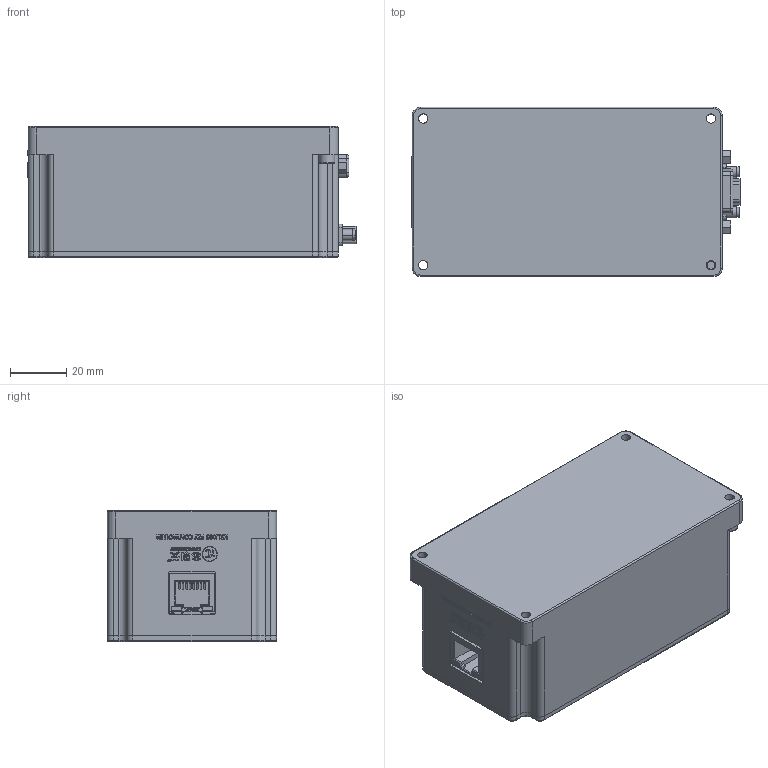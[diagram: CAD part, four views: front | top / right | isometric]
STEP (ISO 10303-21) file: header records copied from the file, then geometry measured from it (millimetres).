
FILE_DESCRIPTION (( 'STEP AP203' ), '1' );
FILE_NAME ('E51.D3S-I.STEP', '2025-07-14T01:10:56', ( 'China' ), ( 'Home' ), 'SwSTEP 2.0', 'SolidWorks 2016', '' );
FILE_SCHEMA (( 'CONFIG_CONTROL_DESIGN' ));
Length unit declared in the file: millimetre
Products named in the file (1): E51.D3S-I
Bounding box: 116.32 x 60 x 46.5 mm (x, y, z)
Surface area: 32309.9 mm2 (no closed solid volume)
Topology: 0 solids, 56 shells, 604 faces, 3317 edges, 2714 vertices
Faces by surface type: plane 309, cylinder 181, cone 52, bspline 37, torus 23, sphere 2
Entity records: 40171 total; most frequent: CARTESIAN_POINT 16520, ORIENTED_EDGE 4348, DIRECTION 4065, EDGE_CURVE 3303, VERTEX_POINT 2712, LINE 1939, VECTOR 1939, AXIS2_PLACEMENT_3D 1063
